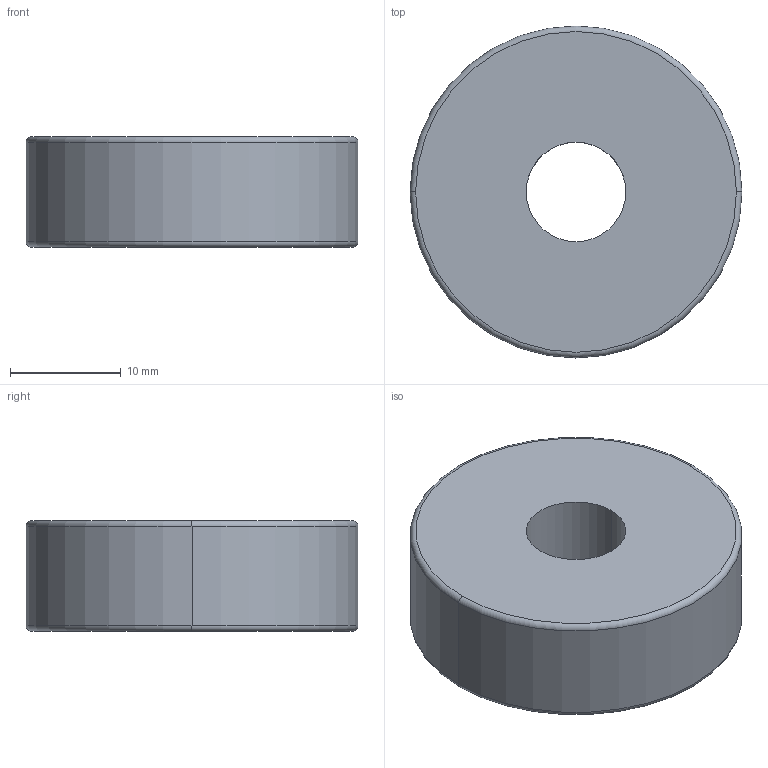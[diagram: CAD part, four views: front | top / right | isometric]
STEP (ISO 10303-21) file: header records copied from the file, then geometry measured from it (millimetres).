
FILE_DESCRIPTION (( 'STEP AP203' ), '1' );
FILE_NAME ('084.711.003.STEP', '2013-01-31T14:31:16', ( 'Alusic' ), ( 'Alusic' ), 'SwSTEP 2.0', 'SolidWorks 2011', '' );
FILE_SCHEMA (( 'CONFIG_CONTROL_DESIGN' ));
Length unit declared in the file: millimetre
Products named in the file (1): 084.711.003
Bounding box: 30 x 30 x 10 mm (x, y, z)
Volume: 6422.4 mm3; surface area: 2471 mm2
Topology: 1 solids, 1 shells, 10 faces, 20 edges, 12 vertices
Faces by surface type: torus 4, cylinder 4, plane 2
Entity records: 349 total; most frequent: DIRECTION 58, CARTESIAN_POINT 43, ORIENTED_EDGE 40, AXIS2_PLACEMENT_3D 27, EDGE_CURVE 20, CIRCLE 16, EDGE_LOOP 12, VERTEX_POINT 12
